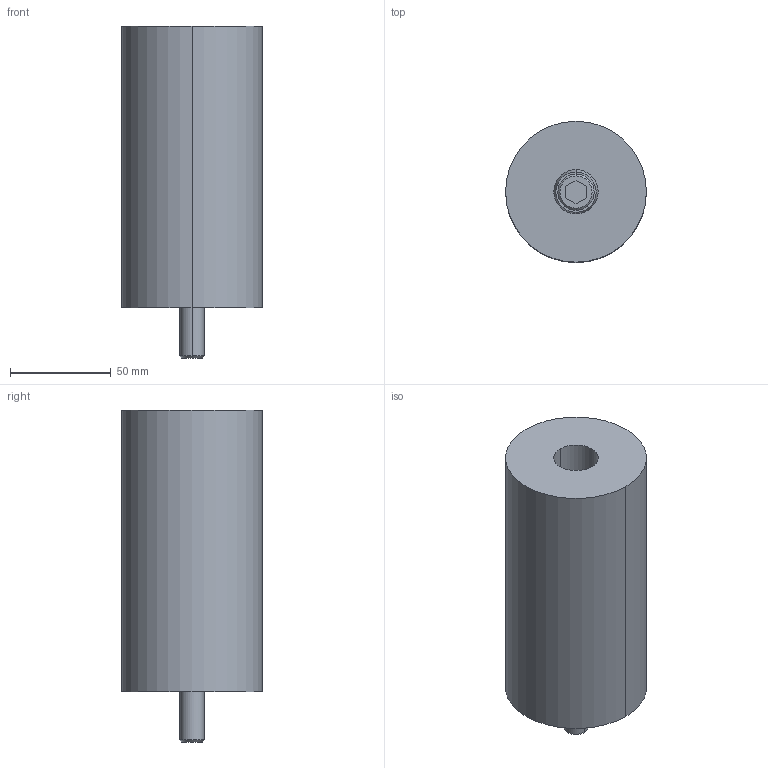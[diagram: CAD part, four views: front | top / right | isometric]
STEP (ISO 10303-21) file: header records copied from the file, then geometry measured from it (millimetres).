
FILE_DESCRIPTION(/* description */ (''),/* implementation_level */ '2;1');
FILE_NAME(/* name */ '3d_esub7022140_07040_r00.stp',/* time_stamp */ '2011-01-10T14:15:39+09:00',/* author */ ('MISUMI'),/* organization */ (''),/* preprocessor_version */ 'ST-DEVELOPER v11',/* originating_system */ 'UGS - NX 5.0',/* authorisation */ '');
FILE_SCHEMA (('CONFIG_CONTROL_DESIGN'));
Length unit declared in the file: millimetre
Products named in the file (1): 3d_esub7022140_07040_r00
Bounding box: 70 x 70 x 165 mm (x, y, z)
Volume: 504025.1 mm3; surface area: 54835.8 mm2
Topology: 3 solids, 3 shells, 36 faces, 74 edges, 46 vertices
Faces by surface type: cylinder 14, plane 14, cone 8
Entity records: 1042 total; most frequent: DIRECTION 182, CARTESIAN_POINT 157, ORIENTED_EDGE 148, EDGE_CURVE 74, AXIS2_PLACEMENT_3D 71, VERTEX_POINT 46, EDGE_LOOP 42, LINE 40
